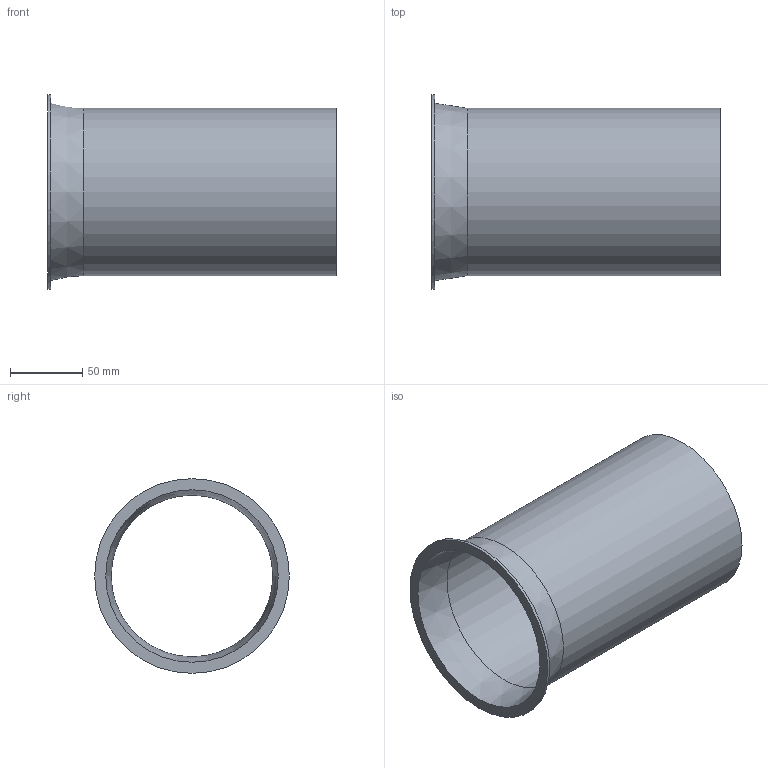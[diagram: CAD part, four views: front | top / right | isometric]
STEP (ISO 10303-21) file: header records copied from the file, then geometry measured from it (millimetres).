
FILE_DESCRIPTION((''),'2;1');
FILE_NAME('U:\Wolfgang\Marcel-3D\fertig\Kapitel 1\1211008.stp','2010-05-31T11:02:22',('TK2'),(''),'Autodesk Inventor 2010','Autodesk Inventor 2010','');
FILE_SCHEMA(('AUTOMOTIVE_DESIGN { 1 0 10303 214 1 1 1 1 }'));
Length unit declared in the file: millimetre
Products named in the file (1): 1211008
Bounding box: 200 x 135 x 135 mm (x, y, z)
Volume: 148808.4 mm3; surface area: 150361.9 mm2
Topology: 1 solids, 1 shells, 8 faces, 14 edges, 9 vertices
Faces by surface type: cylinder 3, plane 3, cone 2
Full cylindrical faces by diameter (mm): 112 x1, 116 x1, 135 x1
Entity records: 194 total; most frequent: DIRECTION 34, CARTESIAN_POINT 25, AXIS2_PLACEMENT_3D 17, ORIENTED_EDGE 16, EDGE_LOOP 16, VERTEX_POINT 8, CIRCLE 8, EDGE_CURVE 8
